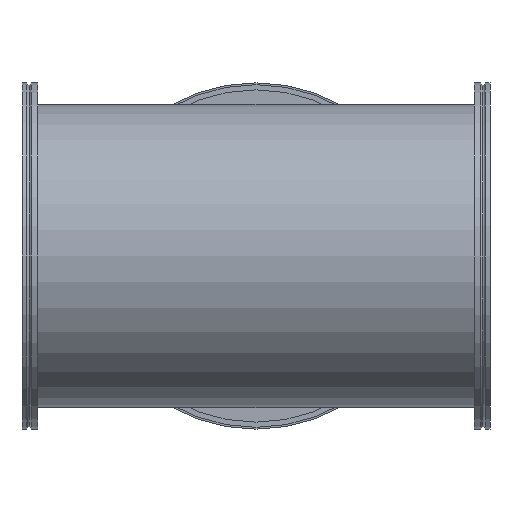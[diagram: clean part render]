
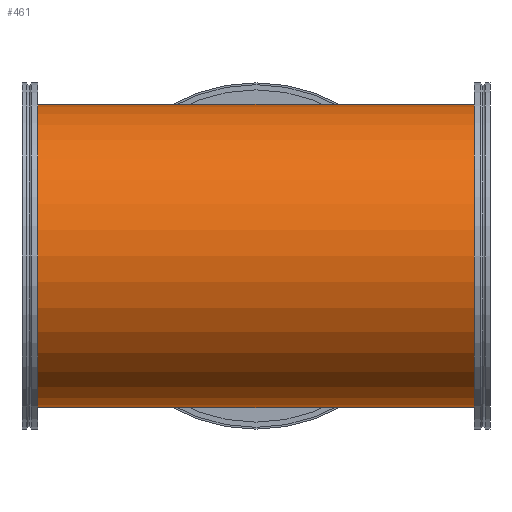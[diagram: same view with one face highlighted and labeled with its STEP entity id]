
A CAD part, left-side view. The second image highlights one B-rep face of the part: STEP entity #461.
In plain terms, the highlighted cylindrical face has radius 161.95 mm (diameter 323.9 mm), a partial arc.
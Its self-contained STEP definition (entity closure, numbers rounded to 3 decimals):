
#34 = VERTEX_POINT ( 'NONE', #491 ) ;
#43 = ORIENTED_EDGE ( 'NONE', *, *, #366, .T. ) ;
#57 = CARTESIAN_POINT ( 'NONE',  ( 0., -0.002, -161.95 ) ) ;
#60 = AXIS2_PLACEMENT_3D ( 'NONE', #1331, #1894, #916 ) ;
#89 = FACE_OUTER_BOUND ( 'NONE', #2379, .T. ) ;
#94 = DIRECTION ( 'NONE',  ( 0., 1., 0. ) ) ;
#97 = DIRECTION ( 'NONE',  ( 0., 1., 0. ) ) ;
#115 = CARTESIAN_POINT ( 'NONE',  ( 0., 13., 0. ) ) ;
#177 = ORIENTED_EDGE ( 'NONE', *, *, #469, .F. ) ;
#259 = VERTEX_POINT ( 'NONE', #2236 ) ;
#272 = VECTOR ( 'NONE', #356, 1000. ) ;
#308 = CYLINDRICAL_SURFACE ( 'NONE', #1518, 161.95 ) ;
#356 = DIRECTION ( 'NONE',  ( 0., 1., 0. ) ) ;
#366 = EDGE_CURVE ( 'NONE', #2367, #1958, #1767, .T. ) ;
#381 = DIRECTION ( 'NONE',  ( 0., 1., 0. ) ) ;
#440 = ORIENTED_EDGE ( 'NONE', *, *, #2273, .F. ) ;
#448 = CARTESIAN_POINT ( 'NONE',  ( 0., -0.002, -161.95 ) ) ;
#461 = ADVANCED_FACE ( 'NONE', ( #89 ), #308, .T. ) ;
#469 = EDGE_CURVE ( 'NONE', #2367, #259, #745, .T. ) ;
#491 = CARTESIAN_POINT ( 'NONE',  ( 0., 487., 161.95 ) ) ;
#702 = CIRCLE ( 'NONE', #60, 161.95 ) ;
#745 = CIRCLE ( 'NONE', #1069, 161.95 ) ;
#854 = DIRECTION ( 'NONE',  ( 0., 1., 0. ) ) ;
#916 = DIRECTION ( 'NONE',  ( 0., 0., -1. ) ) ;
#929 = CARTESIAN_POINT ( 'NONE',  ( 0., 487., -161.95 ) ) ;
#1004 = LINE ( 'NONE', #448, #1223 ) ;
#1007 = ORIENTED_EDGE ( 'NONE', *, *, #1649, .T. ) ;
#1046 = VERTEX_POINT ( 'NONE', #929 ) ;
#1069 = AXIS2_PLACEMENT_3D ( 'NONE', #115, #2003, #2448 ) ;
#1219 = CARTESIAN_POINT ( 'NONE',  ( 0., -0.002, 161.95 ) ) ;
#1223 = VECTOR ( 'NONE', #94, 1000. ) ;
#1244 = DIRECTION ( 'NONE',  ( 0., 0., 1. ) ) ;
#1306 = EDGE_CURVE ( 'NONE', #1873, #1046, #1840, .T. ) ;
#1331 = CARTESIAN_POINT ( 'NONE',  ( 0., 487., 0. ) ) ;
#1518 = AXIS2_PLACEMENT_3D ( 'NONE', #1843, #854, #1244 ) ;
#1527 = ORIENTED_EDGE ( 'NONE', *, *, #1306, .F. ) ;
#1541 = LINE ( 'NONE', #2121, #1880 ) ;
#1632 = VECTOR ( 'NONE', #97, 1000. ) ;
#1649 = EDGE_CURVE ( 'NONE', #1958, #34, #1541, .T. ) ;
#1767 = LINE ( 'NONE', #1219, #272 ) ;
#1840 = LINE ( 'NONE', #57, #1632 ) ;
#1843 = CARTESIAN_POINT ( 'NONE',  ( 0., -0.002, 0. ) ) ;
#1873 = VERTEX_POINT ( 'NONE', #2113 ) ;
#1880 = VECTOR ( 'NONE', #381, 1000. ) ;
#1894 = DIRECTION ( 'NONE',  ( 0., -1., 0. ) ) ;
#1924 = ORIENTED_EDGE ( 'NONE', *, *, #1932, .T. ) ;
#1932 = EDGE_CURVE ( 'NONE', #34, #1046, #702, .T. ) ;
#1958 = VERTEX_POINT ( 'NONE', #2104 ) ;
#2003 = DIRECTION ( 'NONE',  ( 0., -1., 0. ) ) ;
#2104 = CARTESIAN_POINT ( 'NONE',  ( 0., 250., 161.95 ) ) ;
#2113 = CARTESIAN_POINT ( 'NONE',  ( 0., 250., -161.95 ) ) ;
#2121 = CARTESIAN_POINT ( 'NONE',  ( 0., -0.002, 161.95 ) ) ;
#2236 = CARTESIAN_POINT ( 'NONE',  ( 0., 13., -161.95 ) ) ;
#2258 = CARTESIAN_POINT ( 'NONE',  ( 0., 13., 161.95 ) ) ;
#2273 = EDGE_CURVE ( 'NONE', #259, #1873, #1004, .T. ) ;
#2367 = VERTEX_POINT ( 'NONE', #2258 ) ;
#2379 = EDGE_LOOP ( 'NONE', ( #440, #177, #43, #1007, #1924, #1527 ) ) ;
#2448 = DIRECTION ( 'NONE',  ( 0., 0., -1. ) ) ;
